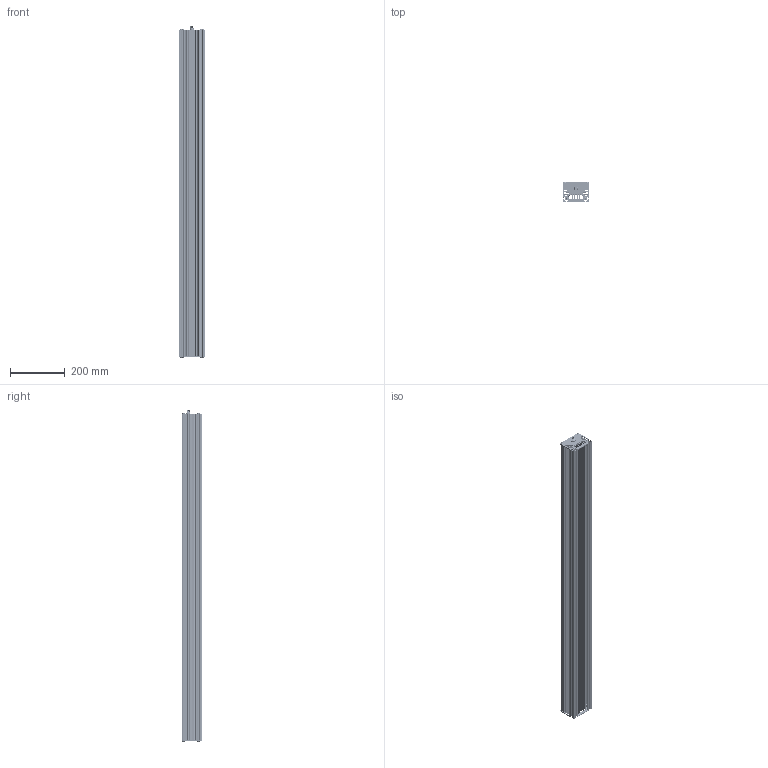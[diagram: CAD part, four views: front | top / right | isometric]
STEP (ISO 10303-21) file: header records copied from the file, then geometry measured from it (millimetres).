
FILE_DESCRIPTION (( 'STEP AP214' ), '1' );
FILE_NAME ('MLLT146-XXX.STEP', '2026-05-26T02:40:46', ( '' ), ( '' ), 'SwSTEP 2.0', 'SolidWorks 2025', '' );
FILE_SCHEMA (( 'AUTOMOTIVE_DESIGN' ));
Length unit declared in the file: inch
Products named in the file (20): Extrusion MLLT_46; 2500-00565C-BT; MLLT146-XXX; 2060-401; 2500-00565C-SBN; 2610-00066-DOME; Standard Lens; Extrusion MLLT_End; MLL111.5-3535; Extrusion MLLT_End M12 B&L-code; 2500-00565C_ASM; xpg3; 2500-00565C; FSW 4.5-0.2 Connector; 10-32 x .750_92949A269; MLL111.5-3535_PCB-LL111.5; 3535_holder_10568; SD-MLLTxxxx_46; LED-Lens Holder and Lens; 2500-00565C-SB
Assembly tree (43 placements, depth 6):
  MLLT146-XXX
    Extrusion MLLT_46
    Extrusion MLLT_End M12 B&L-code
    Extrusion MLLT_End
    10-32 x .750_92949A269  x8
    FSW 4.5-0.2 Connector
    MLL111.5-3535  x4
      MLL111.5-3535_PCB-LL111.5
      LED-Lens Holder and Lens
        3535_holder_10568
        xpg3
          2500-00565C_ASM
            2500-00565C
            2500-00565C-BT
            2500-00565C-SBN
            2500-00565C-SB
          2610-00066-DOME
        Standard Lens
      2060-401
    SD-MLLTxxxx_46
Bounding box: 95.25 x 72.5 x 1215.77 mm (x, y, z)
Volume: 2462661.2 mm3; surface area: 1852308 mm2
Topology: 468 solids, 468 shells, 11736 faces, 30237 edges, 19610 vertices
Faces by surface type: plane 7115, cylinder 1870, cone 1511, bspline 1162, torus 54, sphere 24
Full cylindrical faces by diameter (mm): 0.05 x48, 0.063 x96, 1 x53, 2.25 x16, 2.261 x16, 4.178 x184, 4.826 x176, 5.105 x8, 5.944 x48, 8 x1, 8.3 x1, 9 x1, 9.169 x8, 9.4 x1, 9.45 x2, 9.9 x1, 10 x1, 10.5 x1, 11.4 x1, 12 x1, 13.5 x2, 19.71 x48
Entity records: 38343 total; most frequent: CARTESIAN_POINT 11544, DIRECTION 5184, ORIENTED_EDGE 5128, EDGE_CURVE 2564, AXIS2_PLACEMENT_3D 1879, VERTEX_POINT 1761, VECTOR 1426, LINE 1426
